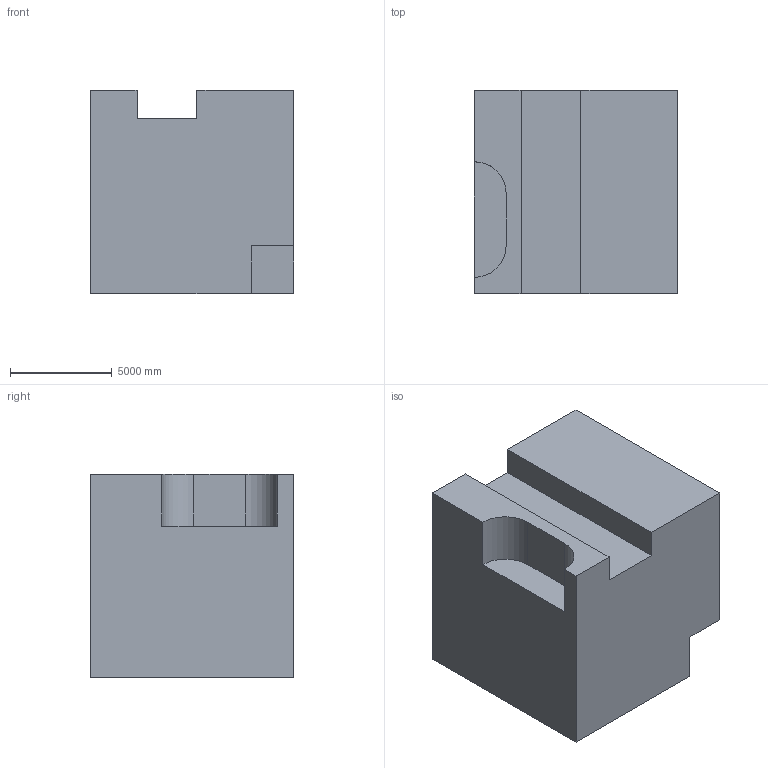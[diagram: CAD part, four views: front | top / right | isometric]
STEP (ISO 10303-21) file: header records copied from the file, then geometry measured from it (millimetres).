
FILE_DESCRIPTION (( 'STEP AP203' ), '1' );
FILE_NAME ('250.STEP', '2022-07-28T14:06:06', ( 'user' ), ( '' ), 'SwSTEP 2.0', 'SolidWorks 2021', '' );
FILE_SCHEMA (( 'CONFIG_CONTROL_DESIGN' ));
Length unit declared in the file: centimetre
Products named in the file (1): 250
Bounding box: 10000 x 10000 x 10000 mm (x, y, z)
Volume: 908684115370.2 mm3; surface area: 624128409.5 mm2
Topology: 1 solids, 1 shells, 17 faces, 45 edges, 30 vertices
Faces by surface type: plane 15, cylinder 2
Entity records: 600 total; most frequent: CARTESIAN_POINT 93, ORIENTED_EDGE 90, DIRECTION 85, EDGE_CURVE 45, VECTOR 41, LINE 41, VERTEX_POINT 30, AXIS2_PLACEMENT_3D 22
